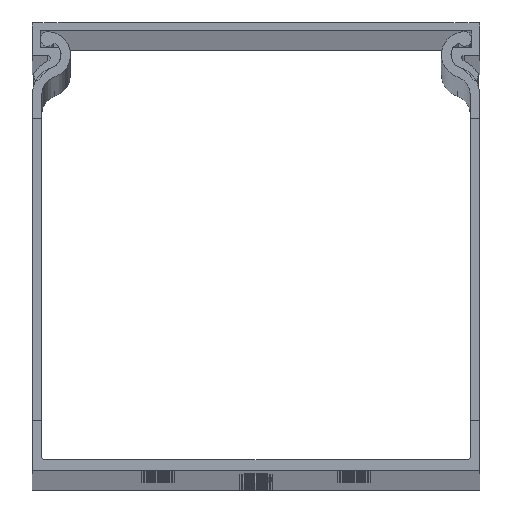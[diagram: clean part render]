
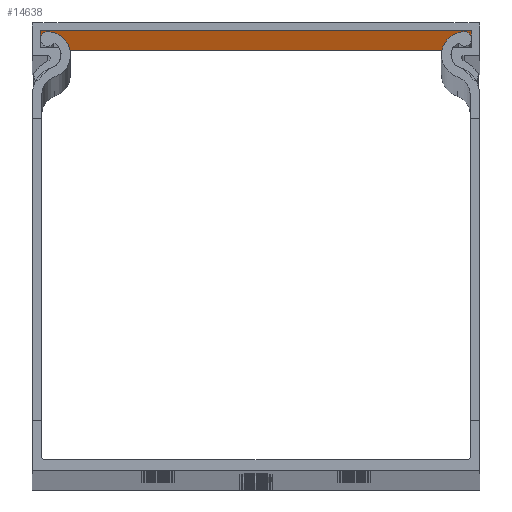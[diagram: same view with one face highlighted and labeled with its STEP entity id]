
A CAD part, top view. The second image highlights one B-rep face of the part: STEP entity #14638.
In plain terms, the highlighted planar face has unit normal (0, -1, 0).
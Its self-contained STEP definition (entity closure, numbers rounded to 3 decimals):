
#2707 = EDGE_CURVE ( 'NONE', #17302, #23976, #27670, .T. ) ;
#5107 = VERTEX_POINT ( 'NONE', #11754 ) ;
#5191 = CARTESIAN_POINT ( 'NONE',  ( 2568.407, 1295.656, 2000. ) ) ;
#8045 = VERTEX_POINT ( 'NONE', #38980 ) ;
#8248 = CARTESIAN_POINT ( 'NONE',  ( 2606.807, 1295.656, 2000. ) ) ;
#11754 = CARTESIAN_POINT ( 'NONE',  ( 2606.807, 1295.656, 0. ) ) ;
#14638 = ADVANCED_FACE ( 'NONE', ( #35433 ), #41559, .F. ) ;
#14728 = EDGE_LOOP ( 'NONE', ( #44709, #23038, #43279, #53208 ) ) ;
#17302 = VERTEX_POINT ( 'NONE', #36876 ) ;
#17713 = DIRECTION ( 'NONE',  ( 0., 0., -1. ) ) ;
#18422 = VECTOR ( 'NONE', #24781, 1000. ) ;
#23038 = ORIENTED_EDGE ( 'NONE', *, *, #35856, .F. ) ;
#23976 = VERTEX_POINT ( 'NONE', #8248 ) ;
#24541 = EDGE_CURVE ( 'NONE', #17302, #8045, #55825, .T. ) ;
#24781 = DIRECTION ( 'NONE',  ( 1., 0., 0. ) ) ;
#27670 = LINE ( 'NONE', #5191, #33173 ) ;
#28624 = LINE ( 'NONE', #31290, #51256 ) ;
#31290 = CARTESIAN_POINT ( 'NONE',  ( 2606.807, 1295.656, 2000. ) ) ;
#33173 = VECTOR ( 'NONE', #35604, 1000. ) ;
#33785 = CARTESIAN_POINT ( 'NONE',  ( 2568.407, 1295.656, 0. ) ) ;
#35433 = FACE_OUTER_BOUND ( 'NONE', #14728, .T. ) ;
#35604 = DIRECTION ( 'NONE',  ( 1., 0., 0. ) ) ;
#35856 = EDGE_CURVE ( 'NONE', #23976, #5107, #28624, .T. ) ;
#36876 = CARTESIAN_POINT ( 'NONE',  ( 2530.007, 1295.656, 2000. ) ) ;
#38980 = CARTESIAN_POINT ( 'NONE',  ( 2530.007, 1295.656, 0. ) ) ;
#39439 = AXIS2_PLACEMENT_3D ( 'NONE', #45426, #41171, #40986 ) ;
#40710 = VECTOR ( 'NONE', #55867, 1000. ) ;
#40951 = EDGE_CURVE ( 'NONE', #8045, #5107, #41703, .T. ) ;
#40986 = DIRECTION ( 'NONE',  ( 0., 0., 1. ) ) ;
#41171 = DIRECTION ( 'NONE',  ( 0., 1., 0. ) ) ;
#41559 = PLANE ( 'NONE',  #39439 ) ;
#41703 = LINE ( 'NONE', #33785, #18422 ) ;
#43279 = ORIENTED_EDGE ( 'NONE', *, *, #2707, .F. ) ;
#44709 = ORIENTED_EDGE ( 'NONE', *, *, #40951, .T. ) ;
#45426 = CARTESIAN_POINT ( 'NONE',  ( 2568.407, 1295.656, 2000. ) ) ;
#51256 = VECTOR ( 'NONE', #17713, 1000. ) ;
#51837 = CARTESIAN_POINT ( 'NONE',  ( 2530.007, 1295.656, 2000. ) ) ;
#53208 = ORIENTED_EDGE ( 'NONE', *, *, #24541, .T. ) ;
#55825 = LINE ( 'NONE', #51837, #40710 ) ;
#55867 = DIRECTION ( 'NONE',  ( 0., 0., -1. ) ) ;
